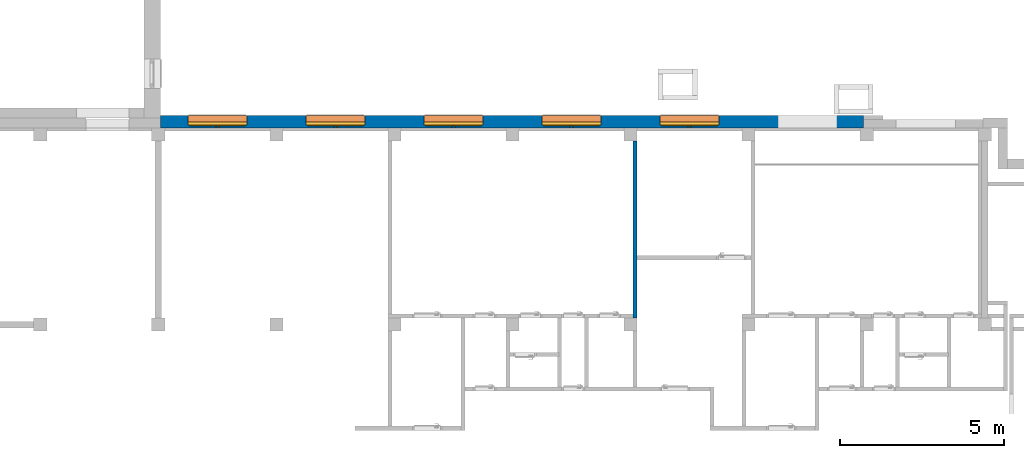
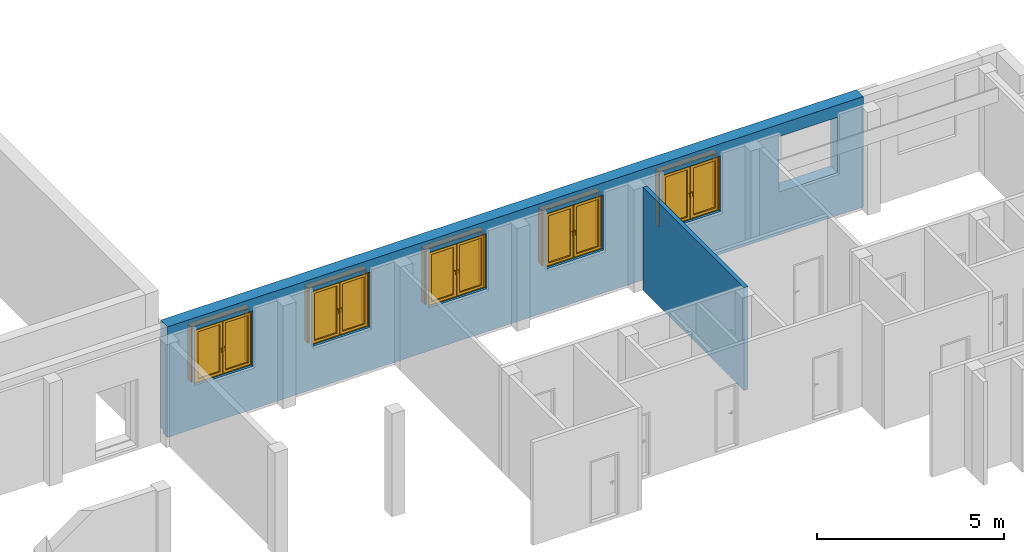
# One storey, part 9 of 37: 5 proxies, 5 windows, 2 walls, 6 openings.
"""IFC4 building model written with IfcOpenShell, lengths in metres."""

import ifcopenshell
import ifcopenshell.guid

model = None  # the IFC model being written
_history = None  # IfcOwnerHistory: only IFC2X3 demands one
_inside = {}  # id of a spatial element -> (the spatial element, [elements in it])
_under = {}  # id of a project, library or spatial element -> (it, [spatial elements below it])
_declared = {}  # id of a project -> (the project, [libraries it declares])
_typed = {}  # id of a type object -> (the type object, [elements of that type])
_made_of = {}  # id of a material, layer set ... -> (it, [elements and type objects made of it])


def new_model(schema):
    """Start an empty IFC model of exactly this schema.

    Asked for "IFC4X3", IfcOpenShell would pick the latest addendum, in which some entities
    have other attributes; the version numbers below select the first issue.
    IFC2X3 requires an IfcOwnerHistory on every rooted entity: one is made here for all.
    """
    global model, _history
    if schema == "IFC4X3":
        model = ifcopenshell.file(schema_version=(4, 3, 0, 0))
    else:
        model = ifcopenshell.file(schema=schema)
    _inside.clear()
    _under.clear()
    _declared.clear()
    _typed.clear()
    _made_of.clear()
    _history = None
    if model.schema == "IFC2X3":
        org = make("IfcOrganization", Name="unknown")
        user = make(
            "IfcPersonAndOrganization",
            ThePerson=make("IfcPerson", FamilyName="unknown"),
            TheOrganization=org,
        )
        app = make(
            "IfcApplication",
            ApplicationDeveloper=org,
            Version="unknown",
            ApplicationFullName="unknown",
            ApplicationIdentifier="unknown",
        )
        _history = make(
            "IfcOwnerHistory",
            OwningUser=user,
            OwningApplication=app,
            ChangeAction="ADDED",
            CreationDate=0,
        )
    return model


def make(cls, **values):
    """One entity of the class cls with the attributes given. An attribute that is None is left unset."""
    return model.create_entity(
        cls, **{name: value for name, value in values.items() if value is not None}
    )


def entity(cls, *values):
    """Any entity or typed value of the class cls, its attributes in the order of the schema. None: left unset."""
    e = model.create_entity(cls)
    for i, value in enumerate(values):
        if value is not None:
            e[i] = value
    return e


def rooted(cls, **values):
    """An entity with a GlobalId (a new one), such as an element, a storey or a relation."""
    return make(cls, GlobalId=ifcopenshell.guid.new(), OwnerHistory=_history, **values)


def si_unit(unit_type, name, prefix=None):
    """IfcSIUnit, for example si_unit("LENGTHUNIT", "METRE", prefix="MILLI")."""
    return make("IfcSIUnit", UnitType=unit_type, Prefix=prefix, Name=name)


def converted_unit(unit_type, name, factor, base, dimensions=None, offset=None):
    """IfcConversionBasedUnit, such as the inch: factor (a typed value) times the base unit."""
    return make(
        "IfcConversionBasedUnit"
        if offset is None
        else "IfcConversionBasedUnitWithOffset",
        ConversionOffset=offset,
        Dimensions=None
        if dimensions is None
        else entity("IfcDimensionalExponents", *dimensions),
        UnitType=unit_type,
        Name=name,
        ConversionFactor=make(
            "IfcMeasureWithUnit", ValueComponent=factor, UnitComponent=base
        ),
    )


def derived_unit(unit_type, elements):
    """IfcDerivedUnit: a product of units, each with its exponent."""
    return make(
        "IfcDerivedUnit",
        Elements=[
            make("IfcDerivedUnitElement", Unit=unit, Exponent=power)
            for unit, power in elements
        ],
        UnitType=unit_type,
    )


def assignment(units):
    """IfcUnitAssignment: the units of a project."""
    return None if units is None else make("IfcUnitAssignment", Units=units)


def point(xyz):
    """IfcCartesianPoint."""
    return None if xyz is None else make("IfcCartesianPoint", Coordinates=xyz)


def direction(xyz):
    """IfcDirection."""
    return None if xyz is None else make("IfcDirection", DirectionRatios=xyz)


def frame(location, z_axis=None, x_axis=None):
    """IfcAxis2Placement3D, a coordinate frame: its origin and axes. An axis left out is left unset."""
    return make(
        "IfcAxis2Placement3D",
        Location=point(location),
        Axis=direction(z_axis),
        RefDirection=direction(x_axis),
    )


def frame_2d(location, x_axis=None):
    """IfcAxis2Placement2D, a coordinate frame in the plane: its origin and x axis."""
    return make(
        "IfcAxis2Placement2D", Location=point(location), RefDirection=direction(x_axis)
    )


def origin():
    """The frame at (0, 0, 0) with its axes left unset."""
    return frame((0.0, 0.0, 0.0))


def origin_with_axes():
    """The frame at (0, 0, 0) with the z axis (0, 0, 1) and the x axis (1, 0, 0) written out."""
    return frame((0.0, 0.0, 0.0), z_axis=(0.0, 0.0, 1.0), x_axis=(1.0, 0.0, 0.0))


def place(relative_to, where):
    """IfcLocalPlacement: puts the frame where relative to a parent placement (None: the world)."""
    return make(
        "IfcLocalPlacement", PlacementRelTo=relative_to, RelativePlacement=where
    )


def context(
    kind, dimensions, precision=None, world=None, true_north=None, identifier=None
):
    """IfcGeometricRepresentationContext, for example the 3D "Model" context."""
    return make(
        "IfcGeometricRepresentationContext",
        ContextIdentifier=identifier,
        ContextType=kind,
        CoordinateSpaceDimension=dimensions,
        Precision=precision,
        WorldCoordinateSystem=world,
        TrueNorth=true_north,
    )


def subcontext(parent, identifier, kind, view, scale=None):
    """IfcGeometricRepresentationSubContext, for example "Body" below "Model"."""
    return make(
        "IfcGeometricRepresentationSubContext",
        ContextIdentifier=identifier,
        ContextType=kind,
        ParentContext=parent,
        TargetScale=scale,
        TargetView=view,
    )


def project(units=None, contexts=None):
    """IfcProject with its units and contexts."""
    return rooted(
        "IfcProject",
        Name="project",
        RepresentationContexts=contexts,
        UnitsInContext=assignment(units),
    )


def spatial(cls, under=None, at=None, **own):
    """A site, building, storey or space (cls), placed at a placement, below another one or the project."""
    s = rooted(cls, ObjectPlacement=at, **own)
    if under is not None:
        _under.setdefault(under.id(), (under, []))[1].append(s)
    return s


def polyline(points):
    """IfcPolyline through the points."""
    return make("IfcPolyline", Points=[point(p) for p in points])


def profile(cls, at=None, kind="AREA", **sizes):
    """A parametric profile (cls). Its sizes go by their IFC names, for example OverallWidth=200.0."""
    return make(cls, ProfileType=kind, Position=at, **sizes)


def rectangle(**sizes):
    """IfcRectangleProfileDef."""
    return profile("IfcRectangleProfileDef", **sizes)


def outline(outer, holes=None, kind="AREA"):
    """IfcArbitraryClosedProfileDef: a profile drawn as a closed curve; with holes, ...WithVoids."""
    if holes is None:
        return make("IfcArbitraryClosedProfileDef", ProfileType=kind, OuterCurve=outer)
    return make(
        "IfcArbitraryProfileDefWithVoids",
        ProfileType=kind,
        OuterCurve=outer,
        InnerCurves=holes,
    )


def extrude(swept, where, along, depth):
    """IfcExtrudedAreaSolid: the profile swept, set in the frame where, extruded along a direction by depth."""
    return make(
        "IfcExtrudedAreaSolid",
        SweptArea=swept,
        Position=where,
        ExtrudedDirection=direction(along),
        Depth=depth,
    )


def clip(a, b, op="DIFFERENCE"):
    """IfcBooleanClippingResult: the solid a cut by the half space b."""
    return make(
        "IfcBooleanClippingResult", Operator=op, FirstOperand=a, SecondOperand=b
    )


def bounded_halfspace(plane, agree, where, boundary):
    """IfcPolygonalBoundedHalfSpace: a half space limited to a polygon's prism."""
    return make(
        "IfcPolygonalBoundedHalfSpace",
        BaseSurface=make("IfcPlane", Position=plane),
        AgreementFlag=agree,
        Position=where,
        PolygonalBoundary=boundary,
    )


def faces_of(points, faces, orient=None, outer=None):
    """IfcFace entities. A face is a list of loops; a loop is a list of indices into points, from 0.

    orient and outer hold one flag for each loop. By default every Orientation is true, the
    first loop of a face is its IfcFaceOuterBound and the others are IfcFaceBound.
    """
    made = []
    for i, loops in enumerate(faces):
        bounds = []
        for j, loop in enumerate(loops):
            is_outer = j == 0 if outer is None else outer[i][j]
            bounds.append(
                make(
                    "IfcFaceOuterBound" if is_outer else "IfcFaceBound",
                    Bound=make("IfcPolyLoop", Polygon=[points[k] for k in loop]),
                    Orientation=True if orient is None else orient[i][j],
                )
            )
        made.append(make("IfcFace", Bounds=bounds))
    return made


def closed_shell(faces, orient=None, outer=None):
    """The faces of one IfcClosedShell. faceted_brep and surface_model build it on their shared points."""
    return ("IfcClosedShell", faces, orient, outer)


def open_shell(faces, orient=None, outer=None):
    """The faces of one IfcOpenShell. surface_model builds it on its shared points."""
    return ("IfcOpenShell", faces, orient, outer)


def faceted_brep(points, faces, orient=None, outer=None, voids=None):
    """IfcFacetedBrep: a solid bounded by flat faces; with voids (closed shells), ...WithVoids."""
    shared = [point(p) for p in points]
    hull = make("IfcClosedShell", CfsFaces=faces_of(shared, faces, orient, outer))
    if voids is None:
        return make("IfcFacetedBrep", Outer=hull)
    return make(
        "IfcFacetedBrepWithVoids",
        Outer=hull,
        Voids=[
            make(cls, CfsFaces=faces_of(shared, fs, o, b)) for cls, fs, o, b in voids
        ],
    )


def surface_model(cls, points, shells):
    """IfcFaceBasedSurfaceModel or IfcShellBasedSurfaceModel (cls): surfaces that need not close."""
    shared = [point(p) for p in points]
    made = [make(c, CfsFaces=faces_of(shared, fs, o, b)) for c, fs, o, b in shells]
    if cls == "IfcFaceBasedSurfaceModel":
        return make(cls, FbsmFaces=made)
    return make(cls, SbsmBoundary=made)


def shape(context_of_items, identifier, shape_type, items):
    """IfcShapeRepresentation: the items that make up one representation, for example the "Body"."""
    return make(
        "IfcShapeRepresentation",
        ContextOfItems=context_of_items,
        RepresentationIdentifier=identifier,
        RepresentationType=shape_type,
        Items=items,
    )


def source(mapping_origin, context_of_items, identifier, shape_type, items):
    """IfcRepresentationMap: a shape defined once, which mapped items show again and again."""
    return make(
        "IfcRepresentationMap",
        MappingOrigin=mapping_origin,
        MappedRepresentation=shape(context_of_items, identifier, shape_type, items),
    )


def transform(
    local_origin,
    x_axis=None,
    y_axis=None,
    z_axis=None,
    scale=None,
    scale2=None,
    scale3=None,
    uniform=True,
):
    """IfcCartesianTransformationOperator3D, or its non-uniform kind. x_axis, y_axis, z_axis: its Axis1, 2, 3."""
    if uniform:
        return make(
            "IfcCartesianTransformationOperator3D",
            Axis1=direction(x_axis),
            Axis2=direction(y_axis),
            LocalOrigin=point(local_origin),
            Scale=scale,
            Axis3=direction(z_axis),
        )
    return make(
        "IfcCartesianTransformationOperator3DnonUniform",
        Axis1=direction(x_axis),
        Axis2=direction(y_axis),
        LocalOrigin=point(local_origin),
        Scale=scale,
        Axis3=direction(z_axis),
        Scale2=scale2,
        Scale3=scale3,
    )


def mapped(mapping_source, mapping_target):
    """IfcMappedItem: shows the shape of a source again, moved by a transform."""
    return make(
        "IfcMappedItem", MappingSource=mapping_source, MappingTarget=mapping_target
    )


def material(Name=None, Category=None):
    """IfcMaterial."""
    return make("IfcMaterial", Name=Name, Category=Category)


def layer(
    of_material, thickness, ventilated=None, Name=None, Category=None, Priority=None
):
    """IfcMaterialLayer: one layer of a wall or slab, of a material (None: an air gap)."""
    return make(
        "IfcMaterialLayer",
        Material=of_material,
        LayerThickness=thickness,
        IsVentilated=ventilated,
        Name=Name,
        Category=Category,
        Priority=Priority,
    )


def layer_set(layers, Name=None):
    """IfcMaterialLayerSet."""
    return make("IfcMaterialLayerSet", MaterialLayers=layers, LayerSetName=Name)


def layer_usage(for_layer_set, set_direction, sense, offset, extent=None):
    """IfcMaterialLayerSetUsage: how a layer set lies in its element."""
    return make(
        "IfcMaterialLayerSetUsage",
        ForLayerSet=for_layer_set,
        LayerSetDirection=set_direction,
        DirectionSense=sense,
        OffsetFromReferenceLine=offset,
        ReferenceExtent=extent,
    )


def made_of(thing, what):
    """Note that an element or type object is made of a material, layer set ...; save() writes the relation."""
    if what is not None:
        _made_of.setdefault(what.id(), (what, []))[1].append(thing)
    return thing


def element(
    cls,
    number,
    at=None,
    inside=None,
    cuts=None,
    type_object=None,
    material=None,
    context=None,
    identifier="Body",
    shape_type=None,
    held_by="IfcProductDefinitionShape",
    body=None,
    shapes=None,
    **own,
):
    """One element of the class cls, such as IfcWall. Its Tag is "e" and its number.

    at: its placement. inside: the storey or other place that contains it. cuts: it is an
    opening in that element (IfcRelVoidsElement). A single representation is given by context,
    identifier, shape_type and body (its items); several are given by shapes. held_by: the class
    of the entity that holds the representations. save() writes the other relations.
    """
    e = rooted(cls, Tag="e%d" % number, ObjectPlacement=at, **own)
    if body is not None:
        shapes = [shape(context, identifier, shape_type, body)]
    if shapes is not None:
        e.Representation = make(held_by, Representations=shapes)
    if inside is not None:
        _inside.setdefault(inside.id(), (inside, []))[1].append(e)
    if cuts is not None:
        rooted(
            "IfcRelVoidsElement", RelatingBuildingElement=cuts, RelatedOpeningElement=e
        )
    if type_object is not None:
        _typed.setdefault(type_object.id(), (type_object, []))[1].append(e)
    return made_of(e, material)


def fill(opening, filler):
    """IfcRelFillsElement: the door or window that sits in an opening."""
    return rooted(
        "IfcRelFillsElement",
        RelatingOpeningElement=opening,
        RelatedBuildingElement=filler,
    )


def aggregate(whole, parts):
    """IfcRelAggregates: a whole, such as a stair, and the parts it consists of."""
    return rooted("IfcRelAggregates", RelatingObject=whole, RelatedObjects=parts)


def save(model, path):
    """Write the relations noted so far, then the file.

    IfcRelAggregates (storeys below a building ...), IfcRelContainedInSpatialStructure (elements
    in a storey), IfcRelDefinesByType, IfcRelAssociatesMaterial and IfcRelDeclares: one each for
    every whole, place, type object, material and project.
    """
    for whole, parts in _under.values():
        aggregate(whole, parts)
    for where, things in _inside.values():
        rooted(
            "IfcRelContainedInSpatialStructure",
            RelatedElements=things,
            RelatingStructure=where,
        )
    for kind, things in _typed.values():
        rooted("IfcRelDefinesByType", RelatedObjects=things, RelatingType=kind)
    for what, things in _made_of.values():
        rooted("IfcRelAssociatesMaterial", RelatedObjects=things, RelatingMaterial=what)
    for by, libraries in _declared.values():
        rooted("IfcRelDeclares", RelatingContext=by, RelatedDefinitions=libraries)
    model.write(path)


model = new_model("IFC4")

# Units and contexts
model_context = context("Model", 3, precision=1e-05, world=origin())
body_context = subcontext(model_context, "Body", "Model", "MODEL_VIEW")
ifc_project = project(units=[si_unit("LENGTHUNIT", "METRE"), si_unit("AREAUNIT", "SQUARE_METRE"), si_unit("VOLUMEUNIT", "CUBIC_METRE"), si_unit("MASSUNIT", "GRAM", prefix="KILO"), converted_unit("PLANEANGLEUNIT", "DEGREE", entity("IfcPlaneAngleMeasure", 0.0174532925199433), si_unit("PLANEANGLEUNIT", "RADIAN"), dimensions=[0, 0, 0, 0, 0, 0, 0]), derived_unit("THERMALTRANSMITTANCEUNIT", [(si_unit("POWERUNIT", "WATT"), 1), (si_unit("THERMODYNAMICTEMPERATUREUNIT", "KELVIN"), -1), (si_unit("LENGTHUNIT", "METRE"), -2)]), derived_unit("VOLUMETRICFLOWRATEUNIT", [(si_unit("LENGTHUNIT", "METRE"), 3), (converted_unit("TIMEUNIT", "hour", entity("IfcTimeMeasure", 3600.0), si_unit("TIMEUNIT", "SECOND"), dimensions=[0, 0, 1, 0, 0, 0, 0]), -1), (si_unit("LENGTHUNIT", "METRE"), -1)])], contexts=[model_context])

# Site, building, storey
site_placement = place(None, origin())
site = spatial("IfcSite", under=ifc_project, at=site_placement, Name="3. ASŘ", CompositionType="ELEMENT")
building_placement = place(site_placement, origin())
building = spatial("IfcBuilding", under=site, at=building_placement, Name="Pavilon B", CompositionType="ELEMENT")
storey_placement = place(building_placement, origin())
storey = spatial("IfcBuildingStorey", under=building, at=storey_placement, Name="Půdorys 1.NP", CompositionType="ELEMENT", Elevation=0.0)

# Wall
ifc_material_1 = material(Name="ZDIVO Z CDm")
ifc_layer_1 = layer(ifc_material_1, 0.125)
ifc_layer_set_1 = layer_set([ifc_layer_1])
ifc_layer_usage_1 = layer_usage(ifc_layer_set_1, "AXIS2", "POSITIVE", 0.0)
wall_1_placement = place(storey_placement, frame((21.2, -21.4, -0.1), z_axis=(0.0, 0.0, 1.0), x_axis=(0.0, 1.0, 0.0)))
element("IfcWall", 1, at=wall_1_placement, inside=storey, material=ifc_layer_usage_1, Name="ZDIVO Z CDm", context=body_context, shape_type="SweptSolid", body=[
    extrude(rectangle(XDim=5.39999999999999, YDim=0.125, at=frame_2d((2.7, 0.0625), x_axis=(1.0, 0.0))), origin_with_axes(), (0.0, 0.0, 1.0), 3.35),
])

# Wall, openings, windows, proxies
ifc_material_2 = material(Name="ZELEZOBETONOVÁ KCE")
ifc_layer_2 = layer(ifc_material_2, 0.249999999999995)
ifc_material_3 = material(Name="MINERÁLNÍ VATA")
ifc_layer_3 = layer(ifc_material_3, 0.119999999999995)
ifc_layer_set_2 = layer_set([ifc_layer_2, ifc_layer_3])
ifc_layer_usage_2 = layer_usage(ifc_layer_set_2, "AXIS2", "POSITIVE", 0.0)
wall_2_placement = place(storey_placement, frame((6.67000000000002, -15.6, -0.1), z_axis=(0.0, 0.0, 1.0), x_axis=(1.0, -8.48805134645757e-17, 0.0)))
wall_2 = element("IfcWall", 2, at=wall_2_placement, inside=storey, material=ifc_layer_usage_2, Name="ZELEZOBETONOVÁ KCE", context=body_context, shape_type="Clipping", body=[
    clip(extrude(rectangle(XDim=21.43, YDim=0.370000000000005, at=frame_2d((10.715, 0.185000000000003), x_axis=(1.0, 0.0))), origin_with_axes(), (0.0, 0.0, 1.0), 3.6), bounded_halfspace(frame((10.715, 0.310000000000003, 0.1), z_axis=(0.0, 0.0, 1.0), x_axis=(8.48805134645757e-17, -1.0, 0.0)), True, origin_with_axes(), polyline([(-3.1405789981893e-17, 0.37), (-2.12201283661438e-17, 0.249999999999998), (21.43, 0.250000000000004), (21.43, 0.370000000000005), (-3.1405789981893e-17, 0.37)]))),
])
opening_1_placement = place(wall_2_placement, frame((2.63, 0.370000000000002, 1.4), z_axis=(0.0, -1.0, 0.0), x_axis=(0.0, 0.0, 1.0)))
opening_1 = element("IfcOpeningElement", 3, at=opening_1_placement, cuts=wall_2, Name="Okenní otvor", ObjectType="Opening", context=body_context, shape_type="SweptSolid", body=[
    extrude(outline(polyline([(0.0, 1.8), (1.8, 1.8), (1.8, 0.0), (0.0, 0.0), (0.0, 1.8)])), origin_with_axes(), (0.0, 0.0, 1.0), 0.12),
    extrude(outline(polyline([(0.0, 1.8), (1.8, 1.8), (1.8, 0.0), (0.0, 0.0), (0.0, 1.8)])), frame((0.0, 0.0, 0.12), z_axis=(0.0, 0.0, 1.0), x_axis=(1.0, 0.0, 0.0)), (0.0, 0.0, 1.0), 0.25),
])
opening_2_placement = place(wall_2_placement, frame((6.23, 0.370000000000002, 1.4), z_axis=(0.0, -1.0, 0.0), x_axis=(0.0, 0.0, 1.0)))
opening_2 = element("IfcOpeningElement", 4, at=opening_2_placement, cuts=wall_2, Name="Okenní otvor", ObjectType="Opening", context=body_context, shape_type="SweptSolid", body=[
    extrude(outline(polyline([(0.0, 1.8), (1.8, 1.8), (1.8, 0.0), (0.0, 0.0), (0.0, 1.8)])), origin_with_axes(), (0.0, 0.0, 1.0), 0.12),
    extrude(outline(polyline([(0.0, 1.8), (1.8, 1.8), (1.8, 0.0), (0.0, 0.0), (0.0, 1.8)])), frame((0.0, 0.0, 0.12), z_axis=(0.0, 0.0, 1.0), x_axis=(1.0, 0.0, 0.0)), (0.0, 0.0, 1.0), 0.25),
])
opening_3_placement = place(wall_2_placement, frame((9.83, 0.370000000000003, 1.4), z_axis=(0.0, -1.0, 0.0), x_axis=(0.0, 0.0, 1.0)))
opening_3 = element("IfcOpeningElement", 5, at=opening_3_placement, cuts=wall_2, Name="Okenní otvor", ObjectType="Opening", context=body_context, shape_type="SweptSolid", body=[
    extrude(outline(polyline([(0.0, 1.8), (1.8, 1.8), (1.8, 0.0), (0.0, 0.0), (0.0, 1.8)])), origin_with_axes(), (0.0, 0.0, 1.0), 0.12),
    extrude(outline(polyline([(0.0, 1.8), (1.8, 1.8), (1.8, 0.0), (0.0, 0.0), (0.0, 1.8)])), frame((0.0, 0.0, 0.12), z_axis=(0.0, 0.0, 1.0), x_axis=(1.0, 0.0, 0.0)), (0.0, 0.0, 1.0), 0.25),
])
opening_4_placement = place(wall_2_placement, frame((13.43, 0.370000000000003, 1.4), z_axis=(0.0, -1.0, 0.0), x_axis=(0.0, 0.0, 1.0)))
opening_4 = element("IfcOpeningElement", 6, at=opening_4_placement, cuts=wall_2, Name="Okenní otvor", ObjectType="Opening", context=body_context, shape_type="SweptSolid", body=[
    extrude(outline(polyline([(0.0, 1.8), (1.8, 1.8), (1.8, 0.0), (0.0, 0.0), (0.0, 1.8)])), origin_with_axes(), (0.0, 0.0, 1.0), 0.12),
    extrude(outline(polyline([(0.0, 1.8), (1.8, 1.8), (1.8, 0.0), (0.0, 0.0), (0.0, 1.8)])), frame((0.0, 0.0, 0.12), z_axis=(0.0, 0.0, 1.0), x_axis=(1.0, 0.0, 0.0)), (0.0, 0.0, 1.0), 0.25),
])
opening_5_placement = place(wall_2_placement, frame((17.03, 0.370000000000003, 1.4), z_axis=(0.0, -1.0, 0.0), x_axis=(0.0, 0.0, 1.0)))
opening_5 = element("IfcOpeningElement", 7, at=opening_5_placement, cuts=wall_2, Name="Okenní otvor", ObjectType="Opening", context=body_context, shape_type="SweptSolid", body=[
    extrude(outline(polyline([(0.0, 1.8), (1.8, 1.8), (1.8, 0.0), (0.0, 0.0), (0.0, 1.8)])), origin_with_axes(), (0.0, 0.0, 1.0), 0.12),
    extrude(outline(polyline([(0.0, 1.8), (1.8, 1.8), (1.8, 0.0), (0.0, 0.0), (0.0, 1.8)])), frame((0.0, 0.0, 0.12), z_axis=(0.0, 0.0, 1.0), x_axis=(1.0, 0.0, 0.0)), (0.0, 0.0, 1.0), 0.25),
])
opening_6_placement = place(wall_2_placement, frame((20.63, 0.250000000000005, 1.4), z_axis=(0.0, -1.0, 0.0), x_axis=(0.0, 0.0, 1.0)))
element("IfcOpeningElement", 8, at=opening_6_placement, cuts=wall_2, Name="Okenní otvor", ObjectType="Opening", context=body_context, shape_type="SweptSolid", body=[
    extrude(outline(polyline([(0.0, 1.8), (1.8, 1.8), (1.8, 0.0), (0.0, 0.0), (0.0, 1.8)])), origin_with_axes(), (0.0, 0.0, 1.0), 0.250000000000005),
    extrude(outline(polyline([(0.0, 1.8), (1.8, 1.8), (1.8, 0.0), (0.0, 0.0), (0.0, 1.8)])), frame((0.0, 0.0, -0.12), z_axis=(0.0, 0.0, 1.0), x_axis=(1.0, 0.0, 0.0)), (0.0, 0.0, 1.0), 0.12),
])
shared_shape = source(origin_with_axes(), body_context, "Body", "SurfaceModel", [
    surface_model("IfcShellBasedSurfaceModel", [(0.0, 0.182, 1.8), (0.0, 0.182, -5.63337527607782e-18), (0.08, 0.182, -5.63337527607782e-18), (0.08, 0.182, 1.8), (0.0, 0.0899999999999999, 5.63337527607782e-18), (0.0, 0.0900000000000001, 1.8), (0.08, 0.0900000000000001, 1.8), (0.08, 0.0899999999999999, 5.63337527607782e-18)], [closed_shell([[[0, 1, 2, 3]], [[4, 5, 6, 7]], [[1, 0, 5, 4]], [[2, 1, 4, 7]], [[3, 2, 7, 6]], [[0, 3, 6, 5]]], orient=[[False], [False], [False], [False], [False], [False]])]),
    surface_model("IfcShellBasedSurfaceModel", [(1.72, 0.182, 1.8), (1.72, 0.182, -5.63337527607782e-18), (1.8, 0.182, -5.63337527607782e-18), (1.8, 0.182, 1.8), (1.72, 0.0899999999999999, 5.63337527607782e-18), (1.72, 0.0900000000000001, 1.8), (1.8, 0.0900000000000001, 1.8), (1.8, 0.0899999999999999, 5.63337527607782e-18)], [closed_shell([[[0, 1, 2, 3]], [[4, 5, 6, 7]], [[1, 0, 5, 4]], [[2, 1, 4, 7]], [[3, 2, 7, 6]], [[0, 3, 6, 5]]], orient=[[False], [False], [False], [False], [False], [False]])]),
    surface_model("IfcShellBasedSurfaceModel", [(0.08, 0.182, 0.08), (0.08, 0.182, -5.63337527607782e-18), (1.72, 0.182, -5.63337527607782e-18), (1.72, 0.182, 0.08), (0.08, 0.0899999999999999, 5.63337527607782e-18), (0.08, 0.0899999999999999, 0.08), (1.72, 0.0899999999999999, 0.08), (1.72, 0.0899999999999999, 5.63337527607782e-18)], [closed_shell([[[0, 1, 2, 3]], [[4, 5, 6, 7]], [[1, 0, 5, 4]], [[2, 1, 4, 7]], [[3, 2, 7, 6]], [[0, 3, 6, 5]]], orient=[[False], [False], [False], [False], [False], [False]])]),
    surface_model("IfcShellBasedSurfaceModel", [(0.08, 0.182, 1.8), (0.08, 0.182, 1.72), (1.72, 0.182, 1.72), (1.72, 0.182, 1.8), (0.08, 0.0900000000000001, 1.72), (0.08, 0.0900000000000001, 1.8), (1.72, 0.0900000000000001, 1.8), (1.72, 0.0900000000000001, 1.72)], [closed_shell([[[0, 1, 2, 3]], [[4, 5, 6, 7]], [[1, 0, 5, 4]], [[2, 1, 4, 7]], [[3, 2, 7, 6]], [[0, 3, 6, 5]]], orient=[[False], [False], [False], [False], [False], [False]])]),
    surface_model("IfcShellBasedSurfaceModel", [(0.86, 0.182, 1.72), (0.86, 0.182, 0.08), (0.94, 0.182, 0.08), (0.94, 0.182, 1.72), (0.86, 0.0899999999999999, 0.08), (0.86, 0.0900000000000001, 1.72), (0.94, 0.0900000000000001, 1.72), (0.94, 0.0899999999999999, 0.08)], [closed_shell([[[0, 1, 2, 3]], [[4, 5, 6, 7]], [[1, 0, 5, 4]], [[2, 1, 4, 7]], [[3, 2, 7, 6]], [[0, 3, 6, 5]]], orient=[[False], [False], [False], [False], [False], [False]])]),
    surface_model("IfcShellBasedSurfaceModel", [(0.05, 0.145, 1.75), (0.05, 0.145, 0.05), (0.13, 0.145, 0.05), (0.13, 0.145, 1.75), (0.05, 0.0599999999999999, 0.05), (0.05, 0.0600000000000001, 1.75), (0.13, 0.0600000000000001, 1.75), (0.13, 0.0599999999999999, 0.05)], [closed_shell([[[0, 1, 2, 3]], [[4, 5, 6, 7]], [[1, 0, 5, 4]], [[2, 1, 4, 7]], [[3, 2, 7, 6]], [[0, 3, 6, 5]]], orient=[[False], [False], [False], [False], [False], [False]])]),
    surface_model("IfcShellBasedSurfaceModel", [(0.81, 0.145, 1.75), (0.81, 0.145, 0.05), (0.89, 0.145, 0.05), (0.89, 0.145, 1.75), (0.81, 0.0599999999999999, 0.05), (0.81, 0.0600000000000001, 1.75), (0.89, 0.0600000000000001, 1.75), (0.89, 0.0599999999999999, 0.05)], [closed_shell([[[0, 1, 2, 3]], [[4, 5, 6, 7]], [[1, 0, 5, 4]], [[2, 1, 4, 7]], [[3, 2, 7, 6]], [[0, 3, 6, 5]]], orient=[[False], [False], [False], [False], [False], [False]])]),
    surface_model("IfcShellBasedSurfaceModel", [(0.13, 0.145, 0.13), (0.13, 0.145, 0.05), (0.81, 0.145, 0.05), (0.81, 0.145, 0.13), (0.13, 0.0599999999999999, 0.05), (0.13, 0.0599999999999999, 0.13), (0.81, 0.0599999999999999, 0.13), (0.81, 0.0599999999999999, 0.05)], [closed_shell([[[0, 1, 2, 3]], [[4, 5, 6, 7]], [[1, 0, 5, 4]], [[2, 1, 4, 7]], [[3, 2, 7, 6]], [[0, 3, 6, 5]]], orient=[[False], [False], [False], [False], [False], [False]])]),
    surface_model("IfcShellBasedSurfaceModel", [(0.13, 0.145, 1.75), (0.13, 0.145, 1.67), (0.81, 0.145, 1.67), (0.81, 0.145, 1.75), (0.13, 0.0600000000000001, 1.67), (0.13, 0.0600000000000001, 1.75), (0.81, 0.0600000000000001, 1.75), (0.81, 0.0600000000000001, 1.67)], [closed_shell([[[0, 1, 2, 3]], [[4, 5, 6, 7]], [[1, 0, 5, 4]], [[2, 1, 4, 7]], [[3, 2, 7, 6]], [[0, 3, 6, 5]]], orient=[[False], [False], [False], [False], [False], [False]])]),
    surface_model("IfcShellBasedSurfaceModel", [(0.8375, 0.06, 0.92), (0.8375, 0.06, 0.88), (0.8625, 0.06, 0.88), (0.8625, 0.06, 0.92), (0.8375, 0.05, 0.88), (0.8375, 0.05, 0.92), (0.8625, 0.05, 0.92), (0.8625, 0.05, 0.88)], [closed_shell([[[0, 1, 2, 3]], [[4, 5, 6, 7]], [[1, 0, 5, 4]], [[2, 1, 4, 7]], [[3, 2, 7, 6]], [[0, 3, 6, 5]]], orient=[[False], [False], [False], [False], [False], [False]])]),
    surface_model("IfcShellBasedSurfaceModel", [(0.86, 0.05, 0.9), (0.858660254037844, 0.05, 0.905), (0.855, 0.05, 0.908660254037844), (0.85, 0.05, 0.91), (0.845, 0.05, 0.908660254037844), (0.841339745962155, 0.05, 0.905), (0.84, 0.05, 0.9), (0.841339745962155, 0.05, 0.895), (0.845, 0.05, 0.891339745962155), (0.85, 0.05, 0.89), (0.855, 0.05, 0.891339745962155), (0.858660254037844, 0.05, 0.895), (0.86, 0.01, 0.9), (0.858660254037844, 0.00500000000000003, 0.905), (0.855, 0.00133974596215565, 0.908660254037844), (0.85, 2.8421709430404e-17, 0.91), (0.845, 0.00133974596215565, 0.908660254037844), (0.841339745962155, 0.00500000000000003, 0.905), (0.84, 0.01, 0.9), (0.841339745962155, 0.015, 0.895), (0.845, 0.0186602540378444, 0.891339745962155), (0.85, 0.02, 0.89), (0.855, 0.0186602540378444, 0.891339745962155), (0.858660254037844, 0.015, 0.895), (0.86, 0.01, 0.785), (0.858660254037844, 0.005, 0.785), (0.855, 0.00133974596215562, 0.785), (0.85, 0.0, 0.785), (0.845, 0.00133974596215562, 0.785), (0.841339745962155, 0.005, 0.785), (0.84, 0.01, 0.785), (0.841339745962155, 0.015, 0.785), (0.845, 0.0186602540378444, 0.785), (0.85, 0.02, 0.785), (0.855, 0.0186602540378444, 0.785), (0.858660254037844, 0.015, 0.785)], [open_shell([[[0, 1, 2, 3, 4, 5, 6, 7, 8, 9, 10, 11]], [[0, 12, 13, 1]], [[1, 13, 14, 2]], [[2, 14, 15, 3]], [[3, 15, 16, 4]], [[4, 16, 17, 5]], [[5, 17, 18, 6]], [[6, 18, 19, 7]], [[7, 19, 20, 8]], [[8, 20, 21, 9]], [[9, 21, 22, 10]], [[10, 22, 23, 11]], [[11, 23, 12, 0]], [[12, 24, 25, 13]], [[13, 25, 26, 14]], [[14, 26, 27, 15]], [[15, 27, 28, 16]], [[16, 28, 29, 17]], [[17, 29, 30, 18]], [[18, 30, 31, 19]], [[19, 31, 32, 20]], [[20, 32, 33, 21]], [[21, 33, 34, 22]], [[22, 34, 35, 23]], [[23, 35, 24, 12]]], orient=[[False], [False], [False], [False], [False], [False], [False], [False], [False], [False], [False], [False], [False], [False], [False], [False], [False], [False], [False], [False], [False], [False], [False], [False], [False]])]),
    surface_model("IfcShellBasedSurfaceModel", [(0.91, 0.145, 1.75), (0.91, 0.145, 0.05), (0.99, 0.145, 0.05), (0.99, 0.145, 1.75), (0.91, 0.0599999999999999, 0.05), (0.91, 0.0600000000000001, 1.75), (0.99, 0.0600000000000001, 1.75), (0.99, 0.0599999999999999, 0.05)], [closed_shell([[[0, 1, 2, 3]], [[4, 5, 6, 7]], [[1, 0, 5, 4]], [[2, 1, 4, 7]], [[3, 2, 7, 6]], [[0, 3, 6, 5]]], orient=[[False], [False], [False], [False], [False], [False]])]),
    surface_model("IfcShellBasedSurfaceModel", [(1.67, 0.145, 1.75), (1.67, 0.145, 0.05), (1.75, 0.145, 0.05), (1.75, 0.145, 1.75), (1.67, 0.0599999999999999, 0.05), (1.67, 0.0600000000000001, 1.75), (1.75, 0.0600000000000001, 1.75), (1.75, 0.0599999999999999, 0.05)], [closed_shell([[[0, 1, 2, 3]], [[4, 5, 6, 7]], [[1, 0, 5, 4]], [[2, 1, 4, 7]], [[3, 2, 7, 6]], [[0, 3, 6, 5]]], orient=[[False], [False], [False], [False], [False], [False]])]),
    surface_model("IfcShellBasedSurfaceModel", [(0.99, 0.145, 0.13), (0.99, 0.145, 0.05), (1.67, 0.145, 0.05), (1.67, 0.145, 0.13), (0.99, 0.0599999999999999, 0.05), (0.99, 0.0599999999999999, 0.13), (1.67, 0.0599999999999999, 0.13), (1.67, 0.0599999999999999, 0.05)], [closed_shell([[[0, 1, 2, 3]], [[4, 5, 6, 7]], [[1, 0, 5, 4]], [[2, 1, 4, 7]], [[3, 2, 7, 6]], [[0, 3, 6, 5]]], orient=[[False], [False], [False], [False], [False], [False]])]),
    surface_model("IfcShellBasedSurfaceModel", [(0.99, 0.145, 1.75), (0.99, 0.145, 1.67), (1.67, 0.145, 1.67), (1.67, 0.145, 1.75), (0.99, 0.0600000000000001, 1.67), (0.99, 0.0600000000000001, 1.75), (1.67, 0.0600000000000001, 1.75), (1.67, 0.0600000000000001, 1.67)], [closed_shell([[[0, 1, 2, 3]], [[4, 5, 6, 7]], [[1, 0, 5, 4]], [[2, 1, 4, 7]], [[3, 2, 7, 6]], [[0, 3, 6, 5]]], orient=[[False], [False], [False], [False], [False], [False]])]),
    surface_model("IfcShellBasedSurfaceModel", [(0.9375, 0.06, 0.92), (0.9375, 0.06, 0.88), (0.9625, 0.06, 0.88), (0.9625, 0.06, 0.92), (0.9375, 0.05, 0.88), (0.9375, 0.05, 0.92), (0.9625, 0.05, 0.92), (0.9625, 0.05, 0.88)], [closed_shell([[[0, 1, 2, 3]], [[4, 5, 6, 7]], [[1, 0, 5, 4]], [[2, 1, 4, 7]], [[3, 2, 7, 6]], [[0, 3, 6, 5]]], orient=[[False], [False], [False], [False], [False], [False]])]),
    surface_model("IfcShellBasedSurfaceModel", [(0.96, 0.05, 0.9), (0.958660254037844, 0.05, 0.905), (0.955, 0.05, 0.908660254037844), (0.95, 0.05, 0.91), (0.945, 0.05, 0.908660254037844), (0.941339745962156, 0.05, 0.905), (0.94, 0.05, 0.9), (0.941339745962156, 0.05, 0.895), (0.945, 0.05, 0.891339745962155), (0.95, 0.05, 0.89), (0.955, 0.05, 0.891339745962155), (0.958660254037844, 0.05, 0.895), (0.96, 0.01, 0.9), (0.958660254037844, 0.00500000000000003, 0.905), (0.955, 0.00133974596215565, 0.908660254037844), (0.95, 2.8421709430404e-17, 0.91), (0.945, 0.00133974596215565, 0.908660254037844), (0.941339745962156, 0.00500000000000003, 0.905), (0.94, 0.01, 0.9), (0.941339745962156, 0.015, 0.895), (0.945, 0.0186602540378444, 0.891339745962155), (0.95, 0.02, 0.89), (0.955, 0.0186602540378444, 0.891339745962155), (0.958660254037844, 0.015, 0.895), (0.96, 0.01, 0.785), (0.958660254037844, 0.005, 0.785), (0.955, 0.00133974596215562, 0.785), (0.95, 0.0, 0.785), (0.945, 0.00133974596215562, 0.785), (0.941339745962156, 0.005, 0.785), (0.94, 0.01, 0.785), (0.941339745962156, 0.015, 0.785), (0.945, 0.0186602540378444, 0.785), (0.95, 0.02, 0.785), (0.955, 0.0186602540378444, 0.785), (0.958660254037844, 0.015, 0.785)], [open_shell([[[0, 1, 2, 3, 4, 5, 6, 7, 8, 9, 10, 11]], [[0, 12, 13, 1]], [[1, 13, 14, 2]], [[2, 14, 15, 3]], [[3, 15, 16, 4]], [[4, 16, 17, 5]], [[5, 17, 18, 6]], [[6, 18, 19, 7]], [[7, 19, 20, 8]], [[8, 20, 21, 9]], [[9, 21, 22, 10]], [[10, 22, 23, 11]], [[11, 23, 12, 0]], [[12, 24, 25, 13]], [[13, 25, 26, 14]], [[14, 26, 27, 15]], [[15, 27, 28, 16]], [[16, 28, 29, 17]], [[17, 29, 30, 18]], [[18, 30, 31, 19]], [[19, 31, 32, 20]], [[20, 32, 33, 21]], [[21, 33, 34, 22]], [[22, 34, 35, 23]], [[23, 35, 24, 12]]], orient=[[False], [False], [False], [False], [False], [False], [False], [False], [False], [False], [False], [False], [False], [False], [False], [False], [False], [False], [False], [False], [False], [False], [False], [False], [False]])]),
    surface_model("IfcShellBasedSurfaceModel", [(0.13, 0.1025, 0.13), (0.81, 0.1025, 0.13), (0.81, 0.1025, 1.67), (0.13, 0.1025, 1.67)], [open_shell([[[0, 1, 2, 3]]], orient=[[False]])]),
    surface_model("IfcShellBasedSurfaceModel", [(0.99, 0.1025, 0.13), (1.67, 0.1025, 0.13), (1.67, 0.1025, 1.67), (0.99, 0.1025, 1.67)], [open_shell([[[0, 1, 2, 3]]], orient=[[False]])]),
])
window_1_placement = place(opening_1_placement, frame((0.0, 1.8, 0.382), z_axis=(1.0, 0.0, 0.0), x_axis=(0.0, -1.0, 1.60048846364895e-16)))
window_1 = element("IfcWindow", 9, at=window_1_placement, inside=storey, Name="O06", OverallHeight=1.8, OverallWidth=1.8, PartitioningType="USERDEFINED", PredefinedType="WINDOW", context=body_context, shape_type="MappedRepresentation", body=[
    mapped(shared_shape, transform((0.0, 0.0, 0.0), x_axis=(1.0, 0.0, 0.0), y_axis=(0.0, 1.0, 0.0), z_axis=(0.0, 0.0, 1.0), scale=1.0)),
])
fill(opening_1, window_1)
window_2_placement = place(opening_2_placement, frame((0.0, 1.8, 0.382), z_axis=(1.0, 0.0, 0.0), x_axis=(0.0, -1.0, 1.60048846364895e-16)))
window_2 = element("IfcWindow", 10, at=window_2_placement, inside=storey, Name="O06", OverallHeight=1.8, OverallWidth=1.8, PartitioningType="USERDEFINED", PredefinedType="WINDOW", context=body_context, shape_type="MappedRepresentation", body=[
    mapped(shared_shape, transform((0.0, 0.0, 0.0), x_axis=(1.0, 0.0, 0.0), y_axis=(0.0, 1.0, 0.0), z_axis=(0.0, 0.0, 1.0), scale=1.0)),
])
fill(opening_2, window_2)
window_3_placement = place(opening_3_placement, frame((0.0, 1.8, 0.382), z_axis=(1.0, 0.0, 0.0), x_axis=(0.0, -1.0, 1.60048846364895e-16)))
window_3 = element("IfcWindow", 11, at=window_3_placement, inside=storey, Name="O06", OverallHeight=1.8, OverallWidth=1.8, PartitioningType="USERDEFINED", PredefinedType="WINDOW", context=body_context, shape_type="MappedRepresentation", body=[
    mapped(shared_shape, transform((0.0, 0.0, 0.0), x_axis=(1.0, 0.0, 0.0), y_axis=(0.0, 1.0, 0.0), z_axis=(0.0, 0.0, 1.0), scale=1.0)),
])
fill(opening_3, window_3)
window_4_placement = place(opening_4_placement, frame((0.0, 1.8, 0.382), z_axis=(1.0, 0.0, 0.0), x_axis=(0.0, -1.0, 1.60048846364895e-16)))
window_4 = element("IfcWindow", 12, at=window_4_placement, inside=storey, Name="O06", OverallHeight=1.8, OverallWidth=1.8, PartitioningType="USERDEFINED", PredefinedType="WINDOW", context=body_context, shape_type="MappedRepresentation", body=[
    mapped(shared_shape, transform((0.0, 0.0, 0.0), x_axis=(1.0, 0.0, 0.0), y_axis=(0.0, 1.0, 0.0), z_axis=(0.0, 0.0, 1.0), scale=1.0)),
])
fill(opening_4, window_4)
window_5_placement = place(opening_5_placement, frame((0.0, 1.8, 0.382000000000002), z_axis=(1.0, 0.0, 0.0), x_axis=(0.0, -1.0, 1.60048846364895e-16)))
window_5 = element("IfcWindow", 13, at=window_5_placement, inside=storey, Name="O06", OverallHeight=1.8, OverallWidth=1.8, PartitioningType="USERDEFINED", PredefinedType="WINDOW", context=body_context, shape_type="MappedRepresentation", body=[
    mapped(shared_shape, transform((0.0, 0.0, 0.0), x_axis=(1.0, 0.0, 0.0), y_axis=(0.0, 1.0, 0.0), z_axis=(0.0, 0.0, 1.0), scale=1.0)),
])
fill(opening_5, window_5)
ifc_material_4 = material(Name="MINERÁLNÍ VATA")
proxy_1_placement = place(opening_1_placement, frame((0.0, 1.8, 0.2)))
proxy_1 = element("IfcBuildingElementProxy", 14, at=proxy_1_placement, inside=storey, material=ifc_material_4, context=body_context, shape_type="Brep", body=[
    faceted_brep([(0.0, -1.8, -0.2), (0.0, -1.8, -1.52784924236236e-16), (1.8, -1.8, -1.52784924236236e-16), (1.8, -1.8, -0.2), (0.0, -1.76, -1.49389703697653e-16), (0.0, -1.76, -0.2), (1.76, -1.76, -0.2), (1.76, -1.76, -1.49389703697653e-16), (1.8, 0.0, 0.0), (1.8, 1.69761026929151e-17, -0.2), (0.0, 1.69761026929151e-17, -0.2), (0.0, -0.0400000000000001, -0.2), (1.76, -0.0400000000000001, -0.2), (1.76, -0.0400000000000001, -3.39522053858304e-18), (0.0, -0.0400000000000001, -3.39522053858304e-18), (0.0, 0.0, 0.0)], [[[0, 1, 2, 3]], [[4, 5, 6, 7]], [[0, 5, 4, 1]], [[3, 2, 8, 9]], [[6, 5, 0, 3, 9, 10, 11, 12]], [[13, 14, 15, 8, 2, 1, 4, 7]], [[7, 6, 12, 13]], [[11, 14, 13, 12]], [[15, 10, 9, 8]], [[11, 10, 15, 14]]], orient=[[False], [False], [False], [False], [False], [False], [False], [False], [False], [False]]),
])
fill(opening_1, proxy_1)
ifc_material_5 = material(Name="MINERÁLNÍ VATA")
proxy_2_placement = place(opening_2_placement, frame((0.0, 1.8, 0.2)))
proxy_2 = element("IfcBuildingElementProxy", 15, at=proxy_2_placement, inside=storey, material=ifc_material_5, context=body_context, shape_type="Brep", body=[
    faceted_brep([(0.0, 0.0, 0.0), (0.0, 1.69761026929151e-17, -0.2), (1.8, 1.69761026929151e-17, -0.2), (1.8, 0.0, 0.0), (1.8, -1.8, -0.2), (1.8, -1.8, -1.52784924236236e-16), (0.0, -0.0400000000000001, -0.2), (0.0, -0.0400000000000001, -3.39522053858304e-18), (0.0, -1.8, -1.52784924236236e-16), (0.0, -1.76, -1.49389703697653e-16), (1.76, -1.76, -1.49389703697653e-16), (1.76, -0.0400000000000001, -3.39522053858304e-18), (1.76, -0.0400000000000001, -0.2), (1.76, -1.76, -0.2), (0.0, -1.76, -0.2), (0.0, -1.8, -0.2)], [[[0, 1, 2, 3]], [[2, 4, 5, 3]], [[6, 1, 0, 7]], [[7, 0, 3, 5, 8, 9, 10, 11]], [[1, 6, 12, 13, 14, 15, 4, 2]], [[6, 7, 11, 12]], [[15, 8, 5, 4]], [[15, 14, 9, 8]], [[9, 14, 13, 10]], [[10, 13, 12, 11]]], orient=[[False], [False], [False], [False], [False], [False], [False], [False], [False], [False]]),
])
fill(opening_2, proxy_2)
ifc_material_6 = material(Name="MINERÁLNÍ VATA")
proxy_3_placement = place(opening_3_placement, frame((0.0, 1.8, 0.2)))
proxy_3 = element("IfcBuildingElementProxy", 16, at=proxy_3_placement, inside=storey, material=ifc_material_6, context=body_context, shape_type="Brep", body=[
    faceted_brep([(0.0, -1.8, -0.2), (0.0, -1.8, -1.52784924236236e-16), (1.8, -1.8, -1.52784924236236e-16), (1.8, -1.8, -0.2), (0.0, -1.76, -1.49389703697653e-16), (0.0, -1.76, -0.2), (1.76, -1.76, -0.2), (1.76, -1.76, -1.49389703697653e-16), (1.8, 0.0, 0.0), (1.8, 1.69761026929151e-17, -0.2), (0.0, 1.69761026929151e-17, -0.2), (0.0, -0.0400000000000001, -0.2), (1.76, -0.0400000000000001, -0.2), (1.76, -0.0400000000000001, -3.39522053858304e-18), (0.0, -0.0400000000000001, -3.39522053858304e-18), (0.0, 0.0, 0.0)], [[[0, 1, 2, 3]], [[4, 5, 6, 7]], [[0, 5, 4, 1]], [[3, 2, 8, 9]], [[6, 5, 0, 3, 9, 10, 11, 12]], [[13, 14, 15, 8, 2, 1, 4, 7]], [[7, 6, 12, 13]], [[11, 14, 13, 12]], [[15, 10, 9, 8]], [[11, 10, 15, 14]]], orient=[[False], [False], [False], [False], [False], [False], [False], [False], [False], [False]]),
])
fill(opening_3, proxy_3)
ifc_material_7 = material(Name="MINERÁLNÍ VATA")
proxy_4_placement = place(opening_4_placement, frame((0.0, 1.8, 0.2)))
proxy_4 = element("IfcBuildingElementProxy", 17, at=proxy_4_placement, inside=storey, material=ifc_material_7, context=body_context, shape_type="Brep", body=[
    faceted_brep([(0.0, 0.0, 0.0), (0.0, 1.69761026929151e-17, -0.2), (1.8, 1.69761026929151e-17, -0.2), (1.8, 0.0, 0.0), (1.8, -1.8, -0.2), (1.8, -1.8, -1.52784924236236e-16), (0.0, -0.0400000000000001, -0.2), (0.0, -0.0400000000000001, -3.39522053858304e-18), (0.0, -1.8, -1.52784924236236e-16), (0.0, -1.76, -1.49389703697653e-16), (1.76, -1.76, -1.49389703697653e-16), (1.76, -0.0400000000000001, -3.39522053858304e-18), (1.76, -0.0400000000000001, -0.2), (1.76, -1.76, -0.2), (0.0, -1.76, -0.2), (0.0, -1.8, -0.2)], [[[0, 1, 2, 3]], [[2, 4, 5, 3]], [[6, 1, 0, 7]], [[7, 0, 3, 5, 8, 9, 10, 11]], [[1, 6, 12, 13, 14, 15, 4, 2]], [[6, 7, 11, 12]], [[15, 8, 5, 4]], [[15, 14, 9, 8]], [[9, 14, 13, 10]], [[10, 13, 12, 11]]], orient=[[False], [False], [False], [False], [False], [False], [False], [False], [False], [False]]),
])
fill(opening_4, proxy_4)
ifc_material_8 = material(Name="MINERÁLNÍ VATA")
proxy_5_placement = place(opening_5_placement, frame((0.0, 1.8, 0.2)))
proxy_5 = element("IfcBuildingElementProxy", 18, at=proxy_5_placement, inside=storey, material=ifc_material_8, context=body_context, shape_type="Brep", body=[
    faceted_brep([(0.0, -1.8, -0.2), (0.0, -1.8, -1.52784924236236e-16), (1.8, -1.8, -1.52784924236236e-16), (1.8, -1.8, -0.2), (0.0, -1.76, -1.49389703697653e-16), (0.0, -1.76, -0.2), (1.76, -1.76, -0.2), (1.76, -1.76, -1.49389703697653e-16), (1.8, 0.0, 0.0), (1.8, 1.69761026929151e-17, -0.2), (0.0, 1.69761026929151e-17, -0.2), (0.0, -0.0400000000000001, -0.2), (1.76, -0.0400000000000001, -0.2), (1.76, -0.0400000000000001, -3.39522053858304e-18), (0.0, -0.0400000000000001, -3.39522053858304e-18), (0.0, 0.0, 0.0)], [[[0, 1, 2, 3]], [[4, 5, 6, 7]], [[0, 5, 4, 1]], [[3, 2, 8, 9]], [[6, 5, 0, 3, 9, 10, 11, 12]], [[13, 14, 15, 8, 2, 1, 4, 7]], [[7, 6, 12, 13]], [[11, 14, 13, 12]], [[15, 10, 9, 8]], [[11, 10, 15, 14]]], orient=[[False], [False], [False], [False], [False], [False], [False], [False], [False], [False]]),
])
fill(opening_5, proxy_5)

save(model, "model.ifc")
